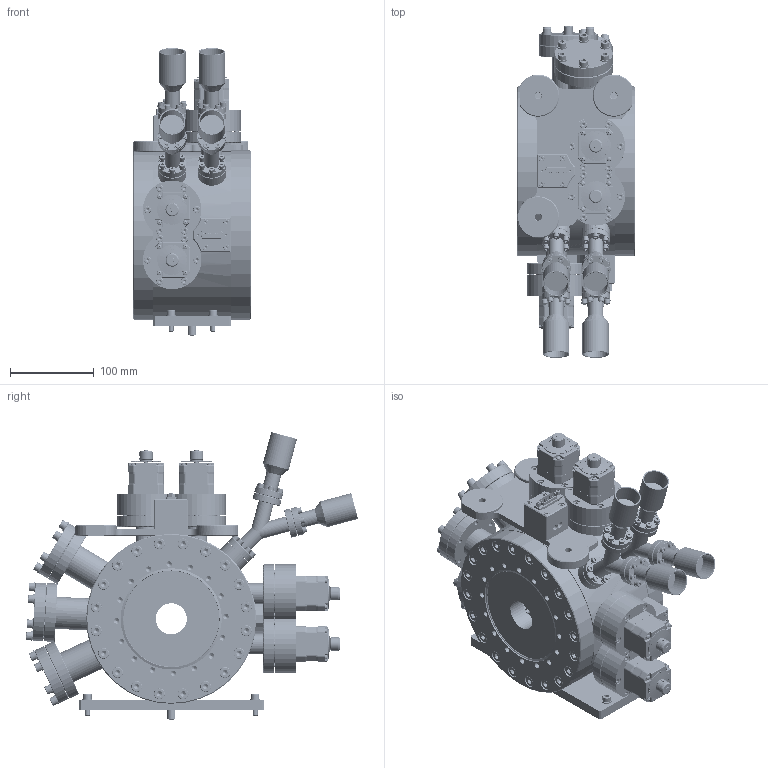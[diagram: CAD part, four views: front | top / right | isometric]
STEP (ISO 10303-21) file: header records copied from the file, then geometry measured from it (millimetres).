
FILE_DESCRIPTION(/* description */ (''),/* implementation_level */ '2;1');
FILE_NAME(/* name */ 'C:\WF\Designs\Slitter\12006 IB-C30 UHV Dreamline\Hjemmeside\step\IB C30 UHV standard for step.stp',/* time_stamp */ '2015-08-11T11:19:56+02:00',/* author */ ('Henning DELL'),/* organization */ ('JJ X-RAY A/S'),/* preprocessor_version */ 'ST-DEVELOPER v16.1',/* originating_system */ 'Autodesk Inventor 2016',/* authorisation */ '');
FILE_SCHEMA (('AUTOMOTIVE_DESIGN { 1 0 10303 214 3 1 1 }'));
Products named in the file (49): 12006008_Welds; 12006009; 0906-0814015a3; 0906-DN 16 CF F; DN40CF welding Flange thread hole; 0906-0814013a4; 0906-0814014a4; 12006011; 12006008; 0906-0814017a3; Nema 17 motor (42x42) [Part Number [Project]=FL42STH38-1206MB][Descri
ption [Project]=Elmeq]; DIN 913 - M3 x 5; DN40CF Copper ring; Copper foil; DN40CF Motor copper gasket; PF501401T; PF501416 T; 0906-0814017a4; Dsub 15 Pin, 2 Row, Male; D Connector screw; M4-35; M4-40; 12006002; M6-10; 5-16; M5-30; M6-20; 6; OFHC copper DN40CF  PF501 404T; DN16CF welding flange thread hole; Y pipe part 1; DN 16CF Y; DIN 912 - M4 x 0,7 x 16 x 14,25; 4; PF501401-T; A0192_12_CF; DN40CF Blank Flange; ISO 7045 - M3 x 50 - 4.8 - ZDIN EN ISO; DIN 912 - M6 x 1 x 25 x 22,5; DIN 7985 (Z) - M3x8-Z ...
Assembly tree (310 placements, depth 4):
  IB C30 UHV standard for step
    12006008
      12006008_Welds
      12006009
      0906-0814015a3  x4
      0906-DN 16 CF F  x2
      0906-0814014a4  x3
        DN40CF welding Flange thread hole
        0906-0814013a4
      12006011  x4
    0906-0814017a3  x4
    Nema 17 motor (42x42) [Part Number [Project]=FL42STH38-1206MB][Descri
ption [Project]=Elmeq]  x4
    DIN 913 - M3 x 5  x8
    DN40CF Motor copper gasket  x4
      DN40CF Copper ring
      Copper foil
    PF501401T  x2
    PF501416 T  x2
    0906-0814017a4  x2
    Dsub 15 Pin, 2 Row, Male  x2
    D Connector screw  x4
    M4-35  x4
    M4-40  x4
    12006002
    M6-10  x2
    5-16  x2
    M5-30  x24
    M6-20  x4
    6  x22
    OFHC copper DN40CF  PF501 404T  x3
    DN 16CF Y  x2
      DN16CF welding flange thread hole
      Y pipe part 1
    DIN 912 - M4 x 0,7 x 16 x 14,25  x36
    4  x36
    PF501401-T  x4
    A0192_12_CF  x4
    DN40CF Blank Flange  x3
    ISO 7045 - M3 x 50 - 4.8 - ZDIN EN ISO  x16
    DIN 912 - M6 x 1 x 25 x 22,5  x18
    DIN 7985 (Z) - M3x8-Z  x8
    DIN 125 - A 3,2  x7
    DIN 912 - M3 x 0,5 x 16 x 14,75
    ISO 2338 - 10 m6 x 24 - ADIN EN
    DIN 934 - M3 x 0,5  x4
    DIN 912 - M3 x 0,5 x 8 x 6,75  x2
    Scale_button_A  x4
    0906-DN160CF_F DN100CF_F (2)  x2
    DIN 912 - M8 x 1,25 x 25 x 21,875  x40
Bounding box: 140 x 395.61 x 342.93 mm (x, y, z)
Volume: 4057438.2 mm3; surface area: 1072939.3 mm2
Topology: 329 solids, 329 shells, 10145 faces, 25109 edges, 16259 vertices
Faces by surface type: plane 5148, cylinder 1913, bspline 1308, cone 1289, torus 428, sphere 59
Full cylindrical faces by diameter (mm): 0.991 x30, 2 x12, 2.156 x4, 2.459 x39, 2.487 x4, 2.729 x16, 2.75 x8, 2.82 x4, 3 x35, 3.048 x4, 3.2 x7, 3.242 x56, 3.356 x2, 4 x48, 4.3 x36, 4.4 x24, 4.5 x28, 4.917 x44, 5 x42, 5.5 x3, 6 x34, 6.2 x24, 6.4 x22, 6.5 x10, 6.6 x18, 6.647 x72, 7 x51, 7.5 x8, 8 x43, 8.4 x40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
Entity records: 79130 total; most frequent: CARTESIAN_POINT 22034, ORIENTED_EDGE 10826, DIRECTION 10568, EDGE_CURVE 5412, AXIS2_PLACEMENT_3D 4040, VERTEX_POINT 3822, EDGE_LOOP 3448, LINE 2488
